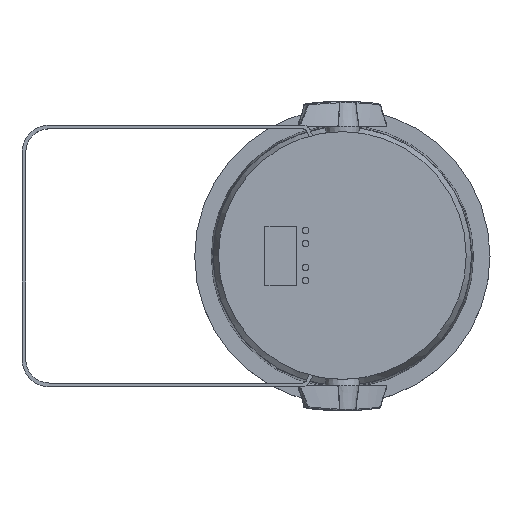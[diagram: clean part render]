
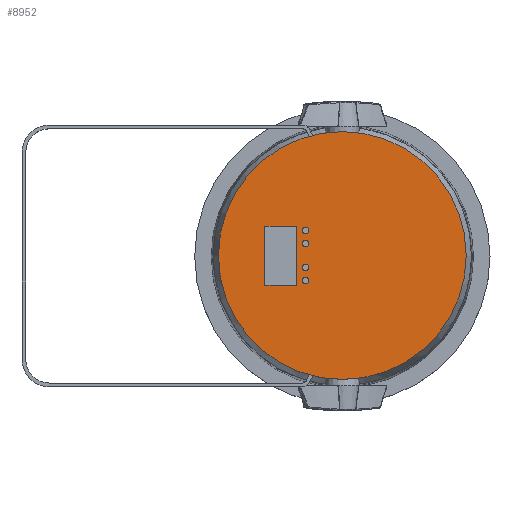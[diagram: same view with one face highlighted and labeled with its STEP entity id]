
A CAD part, top view. The second image highlights one B-rep face of the part: STEP entity #8952.
In plain terms, the highlighted planar face has unit normal (0, 0, 1).
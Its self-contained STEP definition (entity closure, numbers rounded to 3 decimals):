
#732=LINE('',#12725,#1202);
#733=LINE('',#12728,#1203);
#734=LINE('',#12730,#1204);
#735=LINE('',#12732,#1205);
#1202=VECTOR('',#10475,1000.);
#1203=VECTOR('',#10476,1000.);
#1204=VECTOR('',#10477,1000.);
#1205=VECTOR('',#10478,1000.);
#1673=PLANE('',#9568);
#1834=ORIENTED_EDGE('',*,*,#4615,.F.);
#1835=ORIENTED_EDGE('',*,*,#4616,.F.);
#1836=ORIENTED_EDGE('',*,*,#4617,.F.);
#1837=ORIENTED_EDGE('',*,*,#4618,.F.);
#1838=ORIENTED_EDGE('',*,*,#4619,.F.);
#1839=ORIENTED_EDGE('',*,*,#4620,.F.);
#1840=ORIENTED_EDGE('',*,*,#4621,.F.);
#1841=ORIENTED_EDGE('',*,*,#4622,.F.);
#1842=ORIENTED_EDGE('',*,*,#4623,.T.);
#4615=EDGE_CURVE('',#6006,#6006,#6903,.T.);
#4616=EDGE_CURVE('',#6007,#6007,#6904,.T.);
#4617=EDGE_CURVE('',#6008,#6008,#6905,.T.);
#4618=EDGE_CURVE('',#6009,#6009,#6906,.T.);
#4619=EDGE_CURVE('',#6010,#6011,#732,.T.);
#4620=EDGE_CURVE('',#6012,#6010,#733,.T.);
#4621=EDGE_CURVE('',#6013,#6012,#734,.T.);
#4622=EDGE_CURVE('',#6011,#6013,#735,.T.);
#4623=EDGE_CURVE('',#6014,#6014,#6907,.T.);
#6006=VERTEX_POINT('',#12718);
#6007=VERTEX_POINT('',#12720);
#6008=VERTEX_POINT('',#12722);
#6009=VERTEX_POINT('',#12724);
#6010=VERTEX_POINT('',#12726);
#6011=VERTEX_POINT('',#12727);
#6012=VERTEX_POINT('',#12729);
#6013=VERTEX_POINT('',#12731);
#6014=VERTEX_POINT('',#12734);
#6903=CIRCLE('',#9569,2.675);
#6904=CIRCLE('',#9570,2.675);
#6905=CIRCLE('',#9571,2.675);
#6906=CIRCLE('',#9572,2.675);
#6907=CIRCLE('',#9573,99.402);
#7401=EDGE_LOOP('',(#1834));
#7402=EDGE_LOOP('',(#1835));
#7403=EDGE_LOOP('',(#1836));
#7404=EDGE_LOOP('',(#1837));
#7405=EDGE_LOOP('',(#1838,#1839,#1840,#1841));
#7406=EDGE_LOOP('',(#1842));
#8103=FACE_BOUND('',#7401,.T.);
#8104=FACE_BOUND('',#7402,.T.);
#8105=FACE_BOUND('',#7403,.T.);
#8106=FACE_BOUND('',#7404,.T.);
#8107=FACE_BOUND('',#7405,.T.);
#8108=FACE_BOUND('',#7406,.T.);
#8952=ADVANCED_FACE('',(#8103,#8104,#8105,#8106,#8107,#8108),#1673,.T.);
#9568=AXIS2_PLACEMENT_3D('',#12716,#10465,#10466);
#9569=AXIS2_PLACEMENT_3D('',#12717,#10467,#10468);
#9570=AXIS2_PLACEMENT_3D('',#12719,#10469,#10470);
#9571=AXIS2_PLACEMENT_3D('',#12721,#10471,#10472);
#9572=AXIS2_PLACEMENT_3D('',#12723,#10473,#10474);
#9573=AXIS2_PLACEMENT_3D('',#12733,#10479,#10480);
#10465=DIRECTION('',(0.,0.,1.));
#10466=DIRECTION('',(1.,0.,0.));
#10467=DIRECTION('',(0.,0.,1.));
#10468=DIRECTION('',(0.,1.,0.));
#10469=DIRECTION('',(0.,0.,1.));
#10470=DIRECTION('',(0.,1.,0.));
#10471=DIRECTION('',(0.,0.,1.));
#10472=DIRECTION('',(0.,1.,0.));
#10473=DIRECTION('',(0.,0.,1.));
#10474=DIRECTION('',(0.,1.,0.));
#10475=DIRECTION('',(-1.,0.,0.));
#10476=DIRECTION('',(0.,1.,0.));
#10477=DIRECTION('',(1.,0.,0.));
#10478=DIRECTION('',(0.,-1.,0.));
#10479=DIRECTION('',(0.,0.,1.));
#10480=DIRECTION('',(1.,0.,0.));
#12716=CARTESIAN_POINT('',(0.,0.,234.525));
#12717=CARTESIAN_POINT('',(-29.505,20.072,234.525));
#12718=CARTESIAN_POINT('',(-29.505,22.747,234.525));
#12719=CARTESIAN_POINT('',(-29.505,9.616,234.525));
#12720=CARTESIAN_POINT('',(-29.505,12.291,234.525));
#12721=CARTESIAN_POINT('',(-29.505,-9.465,234.525));
#12722=CARTESIAN_POINT('',(-29.505,-6.789,234.525));
#12723=CARTESIAN_POINT('',(-29.505,-20.096,234.525));
#12724=CARTESIAN_POINT('',(-29.505,-17.42,234.525));
#12725=CARTESIAN_POINT('',(-37.036,23.468,234.525));
#12726=CARTESIAN_POINT('',(-37.036,23.468,234.525));
#12727=CARTESIAN_POINT('',(-62.069,23.468,234.525));
#12728=CARTESIAN_POINT('',(-37.036,-23.922,234.525));
#12729=CARTESIAN_POINT('',(-37.036,-23.922,234.525));
#12730=CARTESIAN_POINT('',(-62.069,-23.922,234.525));
#12731=CARTESIAN_POINT('',(-62.069,-23.922,234.525));
#12732=CARTESIAN_POINT('',(-62.069,23.468,234.525));
#12733=CARTESIAN_POINT('',(0.,0.,234.525));
#12734=CARTESIAN_POINT('',(99.402,0.,234.525));
